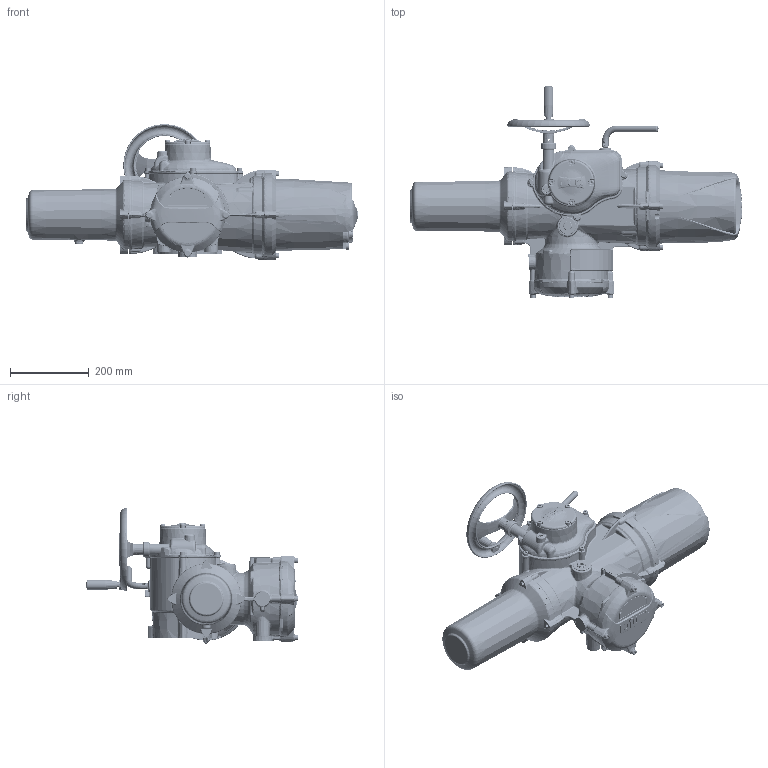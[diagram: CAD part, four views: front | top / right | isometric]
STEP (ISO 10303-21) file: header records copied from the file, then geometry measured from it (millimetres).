
FILE_DESCRIPTION(/* description */ ('Unknown'),/* implementation_level */ '2;1');
FILE_NAME(/* name */ 'IQ3H-2SP-SHW-NOBASE-1',/* time_stamp */ '2021-03-29T10:43:25+01:00',/* author */ ('Unknown'),/* organization */ ('Unknown'),/* preprocessor_version */ 'ST-DEVELOPER v16.7',/* originating_system */ 'Solid Edge',/* authorisation */ 'Unknown');
FILE_SCHEMA (('AUTOMOTIVE_DESIGN {1 0 10303 214 3 1 1}'));
Length unit declared in the file: millimetre
Products named in the file (1): IQ3H-2SP-SHW-NOBASE-1
Bounding box: 843.5 x 537.85 x 345.07 mm (x, y, z)
Volume: 550758.2 mm3; surface area: 1140631.9 mm2
Topology: 35 solids, 37 shells, 5844 faces, 14673 edges, 8711 vertices
Faces by surface type: bspline 2398, plane 1422, cylinder 741, torus 622, cone 473, sphere 188
Full cylindrical faces by diameter (mm): 1.152 x1, 3 x8, 6 x3, 6.2 x2, 6.45 x4, 6.47 x4, 6.5 x1, 7 x4, 7.6 x4, 8 x12, 8.1 x1, 8.2 x1, 8.5 x4, 9.7 x2, 10 x1, 11.78 x1, 12.1 x1, 13 x12, 13.25 x4, 14.376 x1, 15.5 x1, 15.84 x1, 16 x3, 16.75 x1, 17.02 x1, 24.75 x1, 24.78 x1, 26 x1, 29 x1, 30 x1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
Entity records: 261476 total; most frequent: CARTESIAN_POINT 103706, ORIENTED_EDGE 27810, DIRECTION 19623, EDGE_CURVE 13905, VERTEX_POINT 8502, AXIS2_PLACEMENT_3D 8345, FACE_BOUND 6305, EDGE_LOOP 6288
